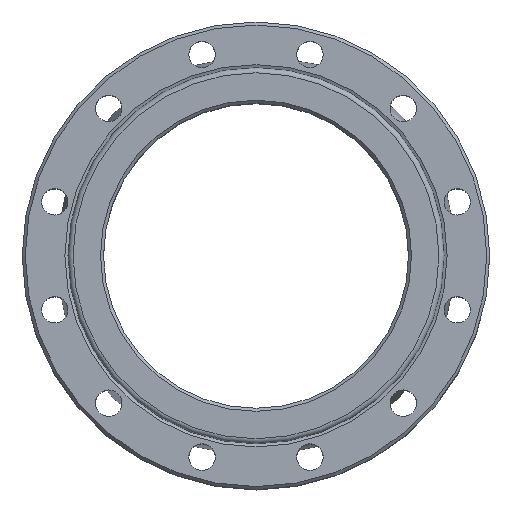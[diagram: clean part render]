
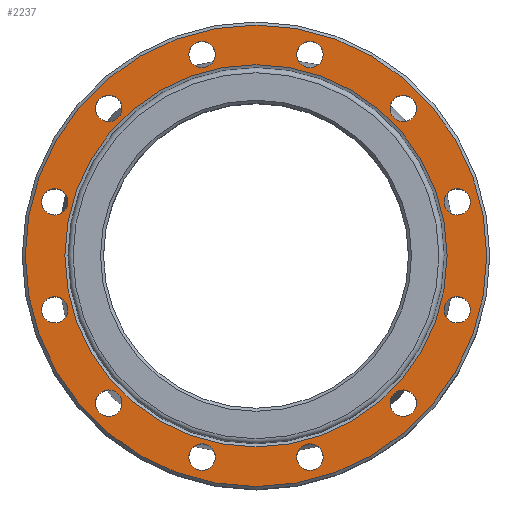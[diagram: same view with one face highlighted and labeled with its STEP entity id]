
A CAD part, top view. The second image highlights one B-rep face of the part: STEP entity #2237.
In plain terms, the highlighted planar face has unit normal (0, 0, 1).
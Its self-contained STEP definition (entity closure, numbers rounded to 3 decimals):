
#274=FACE_BOUND('',#518,.T.);
#275=FACE_BOUND('',#519,.T.);
#276=FACE_BOUND('',#520,.T.);
#277=FACE_BOUND('',#521,.T.);
#278=FACE_BOUND('',#522,.T.);
#279=FACE_BOUND('',#523,.T.);
#280=FACE_BOUND('',#524,.T.);
#281=FACE_BOUND('',#525,.T.);
#282=FACE_BOUND('',#526,.T.);
#283=FACE_BOUND('',#527,.T.);
#284=FACE_BOUND('',#528,.T.);
#285=FACE_BOUND('',#529,.T.);
#286=FACE_BOUND('',#530,.T.);
#319=PLANE('',#2430);
#389=FACE_OUTER_BOUND('',#517,.T.);
#517=EDGE_LOOP('',(#1674));
#518=EDGE_LOOP('',(#1675));
#519=EDGE_LOOP('',(#1676));
#520=EDGE_LOOP('',(#1677));
#521=EDGE_LOOP('',(#1678));
#522=EDGE_LOOP('',(#1679));
#523=EDGE_LOOP('',(#1680));
#524=EDGE_LOOP('',(#1681));
#525=EDGE_LOOP('',(#1682));
#526=EDGE_LOOP('',(#1683));
#527=EDGE_LOOP('',(#1684));
#528=EDGE_LOOP('',(#1685));
#529=EDGE_LOOP('',(#1686));
#530=EDGE_LOOP('',(#1687));
#871=CIRCLE('',#2395,13.);
#873=CIRCLE('',#2398,13.);
#875=CIRCLE('',#2401,13.);
#877=CIRCLE('',#2404,13.);
#879=CIRCLE('',#2407,13.);
#881=CIRCLE('',#2410,13.);
#883=CIRCLE('',#2413,13.);
#885=CIRCLE('',#2416,13.);
#887=CIRCLE('',#2419,13.);
#889=CIRCLE('',#2422,13.);
#891=CIRCLE('',#2425,13.);
#893=CIRCLE('',#2428,13.);
#895=CIRCLE('',#2431,227.);
#896=CIRCLE('',#2432,188.);
#1053=VERTEX_POINT('',#3368);
#1055=VERTEX_POINT('',#3374);
#1057=VERTEX_POINT('',#3380);
#1059=VERTEX_POINT('',#3386);
#1061=VERTEX_POINT('',#3392);
#1063=VERTEX_POINT('',#3398);
#1065=VERTEX_POINT('',#3404);
#1067=VERTEX_POINT('',#3410);
#1069=VERTEX_POINT('',#3416);
#1071=VERTEX_POINT('',#3422);
#1073=VERTEX_POINT('',#3428);
#1075=VERTEX_POINT('',#3434);
#1077=VERTEX_POINT('',#3440);
#1078=VERTEX_POINT('',#3442);
#1278=EDGE_CURVE('',#1053,#1053,#871,.T.);
#1281=EDGE_CURVE('',#1055,#1055,#873,.T.);
#1284=EDGE_CURVE('',#1057,#1057,#875,.T.);
#1287=EDGE_CURVE('',#1059,#1059,#877,.T.);
#1290=EDGE_CURVE('',#1061,#1061,#879,.T.);
#1293=EDGE_CURVE('',#1063,#1063,#881,.T.);
#1296=EDGE_CURVE('',#1065,#1065,#883,.T.);
#1299=EDGE_CURVE('',#1067,#1067,#885,.T.);
#1302=EDGE_CURVE('',#1069,#1069,#887,.T.);
#1305=EDGE_CURVE('',#1071,#1071,#889,.T.);
#1308=EDGE_CURVE('',#1073,#1073,#891,.T.);
#1311=EDGE_CURVE('',#1075,#1075,#893,.T.);
#1314=EDGE_CURVE('',#1077,#1077,#895,.T.);
#1315=EDGE_CURVE('',#1078,#1078,#896,.T.);
#1674=ORIENTED_EDGE('',*,*,#1314,.F.);
#1675=ORIENTED_EDGE('',*,*,#1315,.T.);
#1676=ORIENTED_EDGE('',*,*,#1311,.T.);
#1677=ORIENTED_EDGE('',*,*,#1308,.T.);
#1678=ORIENTED_EDGE('',*,*,#1305,.T.);
#1679=ORIENTED_EDGE('',*,*,#1302,.T.);
#1680=ORIENTED_EDGE('',*,*,#1299,.T.);
#1681=ORIENTED_EDGE('',*,*,#1296,.T.);
#1682=ORIENTED_EDGE('',*,*,#1293,.T.);
#1683=ORIENTED_EDGE('',*,*,#1290,.T.);
#1684=ORIENTED_EDGE('',*,*,#1287,.T.);
#1685=ORIENTED_EDGE('',*,*,#1284,.T.);
#1686=ORIENTED_EDGE('',*,*,#1281,.T.);
#1687=ORIENTED_EDGE('',*,*,#1278,.T.);
#2237=ADVANCED_FACE('',(#389,#274,#275,#276,#277,#278,#279,#280,#281,#282,
#283,#284,#285,#286),#319,.F.);
#2395=AXIS2_PLACEMENT_3D('',#3369,#2736,#2737);
#2398=AXIS2_PLACEMENT_3D('',#3375,#2743,#2744);
#2401=AXIS2_PLACEMENT_3D('',#3381,#2750,#2751);
#2404=AXIS2_PLACEMENT_3D('',#3387,#2757,#2758);
#2407=AXIS2_PLACEMENT_3D('',#3393,#2764,#2765);
#2410=AXIS2_PLACEMENT_3D('',#3399,#2771,#2772);
#2413=AXIS2_PLACEMENT_3D('',#3405,#2778,#2779);
#2416=AXIS2_PLACEMENT_3D('',#3411,#2785,#2786);
#2419=AXIS2_PLACEMENT_3D('',#3417,#2792,#2793);
#2422=AXIS2_PLACEMENT_3D('',#3423,#2799,#2800);
#2425=AXIS2_PLACEMENT_3D('',#3429,#2806,#2807);
#2428=AXIS2_PLACEMENT_3D('',#3435,#2813,#2814);
#2430=AXIS2_PLACEMENT_3D('',#3439,#2818,#2819);
#2431=AXIS2_PLACEMENT_3D('',#3441,#2820,#2821);
#2432=AXIS2_PLACEMENT_3D('',#3443,#2822,#2823);
#2736=DIRECTION('center_axis',(0.,0.,-1.));
#2737=DIRECTION('ref_axis',(1.,0.,0.));
#2743=DIRECTION('center_axis',(0.,0.,-1.));
#2744=DIRECTION('ref_axis',(1.,0.,0.));
#2750=DIRECTION('center_axis',(0.,0.,-1.));
#2751=DIRECTION('ref_axis',(1.,0.,0.));
#2757=DIRECTION('center_axis',(0.,0.,-1.));
#2758=DIRECTION('ref_axis',(1.,0.,0.));
#2764=DIRECTION('center_axis',(0.,0.,-1.));
#2765=DIRECTION('ref_axis',(1.,0.,0.));
#2771=DIRECTION('center_axis',(0.,0.,-1.));
#2772=DIRECTION('ref_axis',(1.,0.,0.));
#2778=DIRECTION('center_axis',(0.,0.,-1.));
#2779=DIRECTION('ref_axis',(1.,0.,0.));
#2785=DIRECTION('center_axis',(0.,0.,-1.));
#2786=DIRECTION('ref_axis',(1.,0.,0.));
#2792=DIRECTION('center_axis',(0.,0.,-1.));
#2793=DIRECTION('ref_axis',(1.,0.,0.));
#2799=DIRECTION('center_axis',(0.,0.,-1.));
#2800=DIRECTION('ref_axis',(1.,0.,0.));
#2806=DIRECTION('center_axis',(0.,0.,-1.));
#2807=DIRECTION('ref_axis',(1.,0.,0.));
#2813=DIRECTION('center_axis',(0.,0.,-1.));
#2814=DIRECTION('ref_axis',(1.,0.,0.));
#2818=DIRECTION('center_axis',(0.,0.,-1.));
#2819=DIRECTION('ref_axis',(-1.,0.,0.));
#2820=DIRECTION('center_axis',(0.,0.,-1.));
#2821=DIRECTION('ref_axis',(1.,0.,0.));
#2822=DIRECTION('center_axis',(0.,0.,-1.));
#2823=DIRECTION('ref_axis',(0.,1.,0.));
#3368=CARTESIAN_POINT('',(-211.015,-53.058,118.5));
#3369=CARTESIAN_POINT('Origin',(-198.015,-53.058,118.5));
#3374=CARTESIAN_POINT('',(-157.957,-144.957,118.5));
#3375=CARTESIAN_POINT('Origin',(-144.957,-144.957,118.5));
#3380=CARTESIAN_POINT('',(-66.058,-198.015,118.5));
#3381=CARTESIAN_POINT('Origin',(-53.058,-198.015,118.5));
#3386=CARTESIAN_POINT('',(40.058,-198.015,118.5));
#3387=CARTESIAN_POINT('Origin',(53.058,-198.015,118.5));
#3392=CARTESIAN_POINT('',(131.957,-144.957,118.5));
#3393=CARTESIAN_POINT('Origin',(144.957,-144.957,118.5));
#3398=CARTESIAN_POINT('',(185.015,-53.058,118.5));
#3399=CARTESIAN_POINT('Origin',(198.015,-53.058,118.5));
#3404=CARTESIAN_POINT('',(185.015,53.058,118.5));
#3405=CARTESIAN_POINT('Origin',(198.015,53.058,118.5));
#3410=CARTESIAN_POINT('',(131.957,144.957,118.5));
#3411=CARTESIAN_POINT('Origin',(144.957,144.957,118.5));
#3416=CARTESIAN_POINT('',(40.058,198.015,118.5));
#3417=CARTESIAN_POINT('Origin',(53.058,198.015,118.5));
#3422=CARTESIAN_POINT('',(-66.058,198.015,118.5));
#3423=CARTESIAN_POINT('Origin',(-53.058,198.015,118.5));
#3428=CARTESIAN_POINT('',(-157.957,144.957,118.5));
#3429=CARTESIAN_POINT('Origin',(-144.957,144.957,118.5));
#3434=CARTESIAN_POINT('',(-211.015,53.058,118.5));
#3435=CARTESIAN_POINT('Origin',(-198.015,53.058,118.5));
#3439=CARTESIAN_POINT('Origin',(0.,0.,118.5));
#3440=CARTESIAN_POINT('',(-227.,0.,118.5));
#3441=CARTESIAN_POINT('Origin',(0.,0.,118.5));
#3442=CARTESIAN_POINT('',(0.,-188.,118.5));
#3443=CARTESIAN_POINT('Origin',(0.,0.,118.5));
